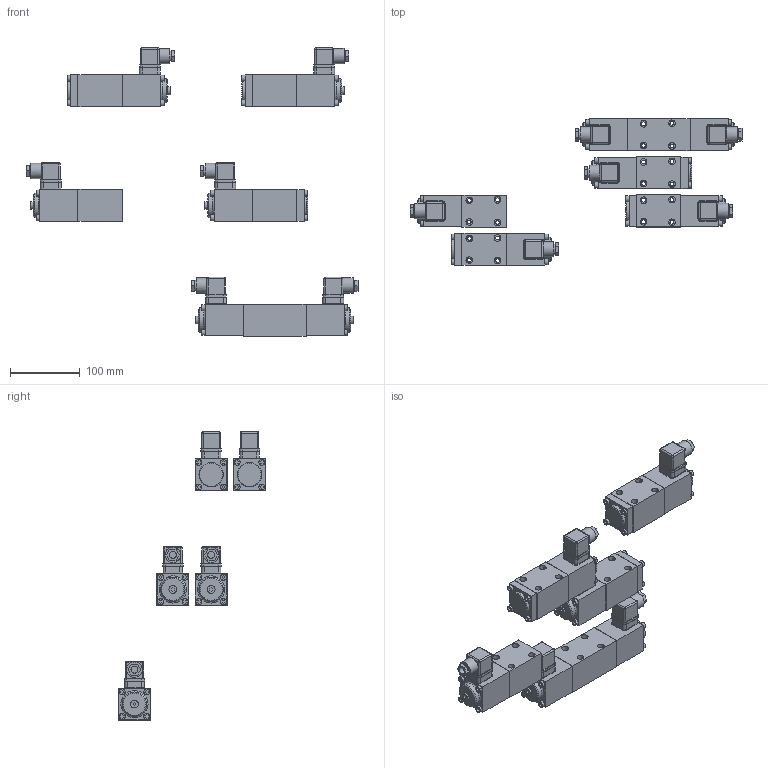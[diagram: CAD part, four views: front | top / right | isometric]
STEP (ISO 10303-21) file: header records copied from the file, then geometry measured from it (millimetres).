
FILE_DESCRIPTION(('Bauteilbeschreibung','HiCAD-Model','HiCAD-STEP-TRANSLATION','Bauteilbeschreibung'),'2;1');
FILE_NAME('D:/A_06.STP','2006-09-29T10:03:23+00:00',('Konstrukteur'),('Konstrukteur Firma GmbH'),'HiCAD3 V1210 STEP 1.6.2005','HiCAD3 V1210','confidential');
FILE_SCHEMA(('AUTOMOTIVE_DESIGN { 1 2 10303 214 0 1 1 1 }'));
Length unit declared in the file: millimetre
Products named in the file (109): A_06; A_3406; E89714F6; A19A6A69; A6B41859; F134825D; AE4B5AD6; CA9517B3; CA9517B30; DICHTUNG; A6B418590; F134825D0; CA9517B31; CA9517B32; DICHTUNG0; AE4B5AD60; IN6KTM5; IN6KTM50; IN6KTM51; IN6KTM52; IN6KTM53; IN6KTM54; IN6KTM55; IN6KTM56; IN6KTM57; IN6KTM58; D82DEE49; D82DEE490; A_3206A1; A4C17CD2; IN6KTM59; IN6KTM510; IN6KTM511; IN6KTM512; IN6KTM513; F77E93F1; F77E93F10; IN6KTM514; IN6KTM515; IN6KTM516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
Assembly tree (108 placements, depth 6):
  A_06
    A_3406
      E89714F6
        A19A6A69
        A6B41859
          F134825D
          AE4B5AD6
          CA9517B3
          CA9517B30
            DICHTUNG
        A6B418590
          F134825D0
          CA9517B31
          CA9517B32
            DICHTUNG0
          AE4B5AD60
        IN6KTM5
          IN6KTM50
          IN6KTM51
          IN6KTM52
          IN6KTM53
        IN6KTM54
          IN6KTM55
          IN6KTM56
          IN6KTM57
          IN6KTM58
        D82DEE49
        D82DEE490
    A_3206A1
      A4C17CD2
        IN6KTM59
          IN6KTM510
          IN6KTM511
          IN6KTM512
          IN6KTM513
        F77E93F1
        F77E93F10
          IN6KTM514
            IN6KTM515
            IN6KTM516
            IN6KTM517
            IN6KTM518
        A6B418591
          F134825D1
          CA9517B33
          CA9517B34
            DICHTUNG1
          AE4B5AD61
        D82DEE491
        AB294FE8
    A_2206A1
      AC017425
        IN6KTM519
          IN6KTM520
          IN6KTM521
          IN6KTM522
          IN6KTM523
        A6B418592
          F134825D2
          CA9517B35
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Bounding box: 476 x 211 x 413.5 mm (x, y, z)
Volume: 1673262.2 mm3; surface area: 330309.5 mm2
Topology: 92 solids, 92 shells, 1495 faces, 3389 edges, 2263 vertices
Faces by surface type: plane 979, cylinder 459, sphere 24, cone 21, torus 12
Full cylindrical faces by diameter (mm): 1.5 x18, 3 x18, 4.9 x6, 5 x36, 5.5 x56, 6.5 x6, 6.8 x6, 8 x12, 8.5 x36, 9.5 x20, 9.8 x6, 10 x6, 11 x6, 12.5 x20, 13.6 x6, 15 x12, 22 x6, 26 x6, 35 x9
Entity records: 70567 total; most frequent: CARTESIAN_POINT 9295, DIRECTION 7210, ORIENTED_EDGE 5714, COLOUR_RGB 4426, PRESENTATION_STYLE_ASSIGNMENT 4426, OVER_RIDING_STYLED_ITEM 4352, CURVE_STYLE 2857, DRAUGHTING_PRE_DEFINED_CURVE_FONT 2857
